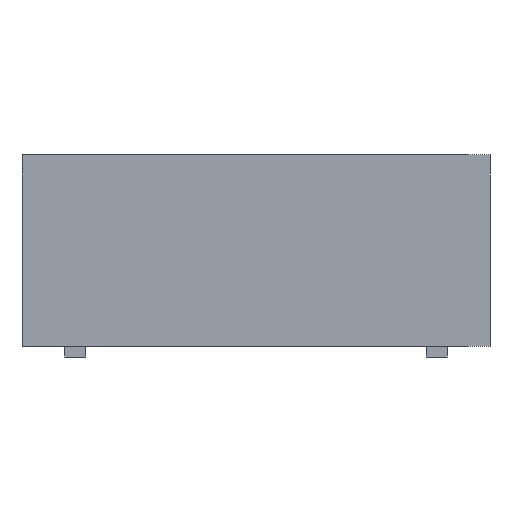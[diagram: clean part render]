
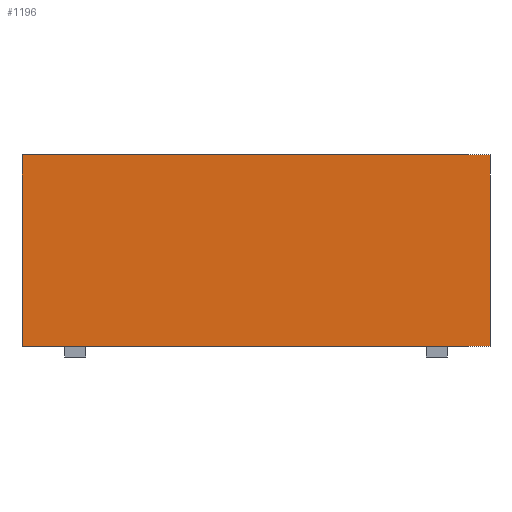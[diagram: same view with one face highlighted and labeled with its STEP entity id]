
A CAD part, front view. The second image highlights one B-rep face of the part: STEP entity #1196.
In plain terms, the highlighted planar face has unit normal (0, -1, 0).
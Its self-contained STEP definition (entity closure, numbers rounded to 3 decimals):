
#214 = VERTEX_POINT ( 'NONE', #732 ) ;
#292 = DIRECTION ( 'NONE',  ( 0., -1., 0. ) ) ;
#361 = VERTEX_POINT ( 'NONE', #921 ) ;
#520 = LINE ( 'NONE', #2576, #1318 ) ;
#732 = CARTESIAN_POINT ( 'NONE',  ( -22., 0., -18. ) ) ;
#832 = CARTESIAN_POINT ( 'NONE',  ( -22., 0., -18. ) ) ;
#856 = DIRECTION ( 'NONE',  ( 1., 0., 0. ) ) ;
#921 = CARTESIAN_POINT ( 'NONE',  ( 22., 0., -18. ) ) ;
#978 = EDGE_CURVE ( 'NONE', #2609, #2725, #1225, .T. ) ;
#1135 = ORIENTED_EDGE ( 'NONE', *, *, #978, .F. ) ;
#1196 = ADVANCED_FACE ( 'NONE', ( #1325 ), #2877, .T. ) ;
#1225 = LINE ( 'NONE', #2505, #1995 ) ;
#1318 = VECTOR ( 'NONE', #2837, 1000. ) ;
#1325 = FACE_OUTER_BOUND ( 'NONE', #1989, .T. ) ;
#1441 = CARTESIAN_POINT ( 'NONE',  ( -22., 0., -18. ) ) ;
#1591 = DIRECTION ( 'NONE',  ( 0., 0., 1. ) ) ;
#1595 = DIRECTION ( 'NONE',  ( 1., 0., 0. ) ) ;
#1666 = CARTESIAN_POINT ( 'NONE',  ( -22., 0., 0. ) ) ;
#1799 = VECTOR ( 'NONE', #856, 1000. ) ;
#1806 = VECTOR ( 'NONE', #1591, 1000. ) ;
#1905 = ORIENTED_EDGE ( 'NONE', *, *, #2497, .F. ) ;
#1921 = ORIENTED_EDGE ( 'NONE', *, *, #2857, .T. ) ;
#1989 = EDGE_LOOP ( 'NONE', ( #1135, #1905, #1921, #2309 ) ) ;
#1995 = VECTOR ( 'NONE', #1595, 1000. ) ;
#2171 = DIRECTION ( 'NONE',  ( 0., 0., -1. ) ) ;
#2211 = LINE ( 'NONE', #3020, #1806 ) ;
#2309 = ORIENTED_EDGE ( 'NONE', *, *, #2352, .T. ) ;
#2352 = EDGE_CURVE ( 'NONE', #361, #2725, #2211, .T. ) ;
#2450 = CARTESIAN_POINT ( 'NONE',  ( 22., 0., 0. ) ) ;
#2476 = AXIS2_PLACEMENT_3D ( 'NONE', #1441, #292, #2171 ) ;
#2497 = EDGE_CURVE ( 'NONE', #214, #2609, #520, .T. ) ;
#2505 = CARTESIAN_POINT ( 'NONE',  ( -22., 0., 0. ) ) ;
#2506 = LINE ( 'NONE', #832, #1799 ) ;
#2576 = CARTESIAN_POINT ( 'NONE',  ( -22., 0., -18. ) ) ;
#2609 = VERTEX_POINT ( 'NONE', #1666 ) ;
#2725 = VERTEX_POINT ( 'NONE', #2450 ) ;
#2837 = DIRECTION ( 'NONE',  ( 0., 0., 1. ) ) ;
#2857 = EDGE_CURVE ( 'NONE', #214, #361, #2506, .T. ) ;
#2877 = PLANE ( 'NONE',  #2476 ) ;
#3020 = CARTESIAN_POINT ( 'NONE',  ( 22., 0., -18. ) ) ;
